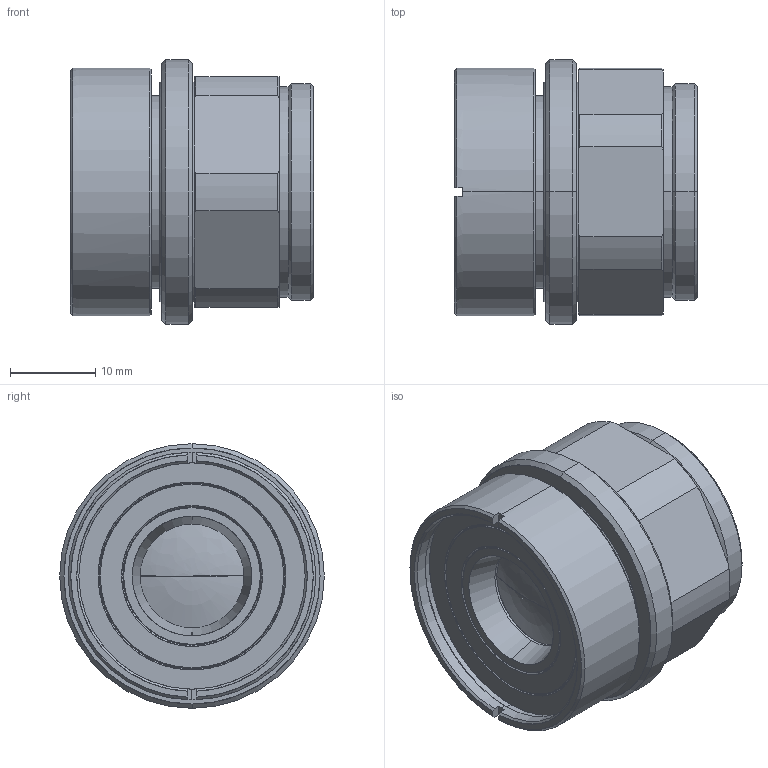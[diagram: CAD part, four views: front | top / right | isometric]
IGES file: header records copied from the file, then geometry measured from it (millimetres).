
Start section: SolidWorks IGES file using analytic representation for surfaces
Global section: file name: C:\Users\tsuji_vst\Documents\【作業フォルダ】\_3D\00 VST\MCA\VS-MCA20.IGS; native system: SolidWorks 2017; preprocessor: SolidWorks 2017; author: tsuji_vst; date: 170828.171116; units: millimetre
Bounding box: 28.5 x 31 x 31 mm (x, y, z)
Surface area: 5325.8 mm2 (no closed solid volume)
Topology: 0 solids, 0 shells, 130 faces, 1544 edges, 1542 vertices
Faces by surface type: revolution 100, bspline 30
